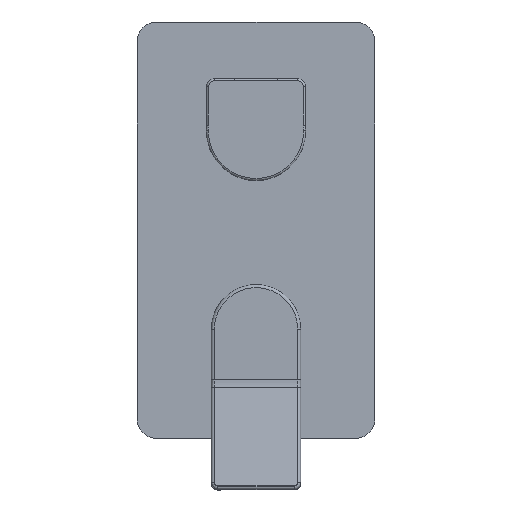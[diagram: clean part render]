
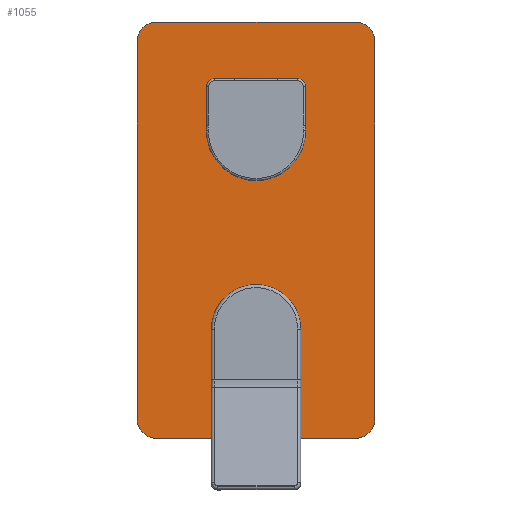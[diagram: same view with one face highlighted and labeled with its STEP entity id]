
A CAD part, top view. The second image highlights one B-rep face of the part: STEP entity #1055.
In plain terms, the highlighted planar face has unit normal (0, 0, 1).
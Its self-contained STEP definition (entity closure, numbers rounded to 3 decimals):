
#8 = AXIS2_PLACEMENT_3D ( 'NONE', #2489, #3439, #3807 ) ;
#42 = EDGE_CURVE ( 'NONE', #112, #3299, #3904, .T. ) ;
#63 = DIRECTION ( 'NONE',  ( 0., 0., -1. ) ) ;
#112 = VERTEX_POINT ( 'NONE', #1714 ) ;
#125 = EDGE_CURVE ( 'NONE', #2062, #479, #244, .T. ) ;
#162 = DIRECTION ( 'NONE',  ( 1., 0., 0. ) ) ;
#209 = CIRCLE ( 'NONE', #8, 22.5 ) ;
#244 = CIRCLE ( 'NONE', #3224, 10. ) ;
#260 = CARTESIAN_POINT ( 'NONE',  ( -4.847, -41.678, 225.167 ) ) ;
#280 = ORIENTED_EDGE ( 'NONE', *, *, #3735, .F. ) ;
#395 = DIRECTION ( 'NONE',  ( 0., 1., 0. ) ) ;
#405 = CARTESIAN_POINT ( 'NONE',  ( -54.847, 103.322, 225.167 ) ) ;
#409 = VECTOR ( 'NONE', #395, 1000. ) ;
#437 = VERTEX_POINT ( 'NONE', #3180 ) ;
#441 = VERTEX_POINT ( 'NONE', #1258 ) ;
#451 = CIRCLE ( 'NONE', #3973, 21.2 ) ;
#479 = VERTEX_POINT ( 'NONE', #3197 ) ;
#521 = CARTESIAN_POINT ( 'NONE',  ( 45.153, -86.678, 225.167 ) ) ;
#534 = DIRECTION ( 'NONE',  ( 0., 0., 1. ) ) ;
#541 = CARTESIAN_POINT ( 'NONE',  ( 17.513, -44.178, 225.167 ) ) ;
#561 = DIRECTION ( 'NONE',  ( 1., 0., 0. ) ) ;
#578 = ORIENTED_EDGE ( 'NONE', *, *, #697, .F. ) ;
#582 = ORIENTED_EDGE ( 'NONE', *, *, #1013, .F. ) ;
#622 = ORIENTED_EDGE ( 'NONE', *, *, #1844, .T. ) ;
#642 = EDGE_CURVE ( 'NONE', #2534, #3655, #451, .T. ) ;
#648 = VERTEX_POINT ( 'NONE', #541 ) ;
#697 = EDGE_CURVE ( 'NONE', #2790, #1400, #2550, .T. ) ;
#772 = EDGE_CURVE ( 'NONE', #2100, #112, #1596, .T. ) ;
#773 = CARTESIAN_POINT ( 'NONE',  ( -29.847, 58.322, 225.167 ) ) ;
#806 = EDGE_CURVE ( 'NONE', #479, #2790, #3848, .T. ) ;
#812 = DIRECTION ( 'NONE',  ( -1., 0., 0. ) ) ;
#813 = CIRCLE ( 'NONE', #1617, 10. ) ;
#827 = AXIS2_PLACEMENT_3D ( 'NONE', #2395, #2698, #812 ) ;
#885 = DIRECTION ( 'NONE',  ( 0., 0., -1. ) ) ;
#941 = DIRECTION ( 'NONE',  ( 0., 0., -1. ) ) ;
#1013 = EDGE_CURVE ( 'NONE', #437, #1314, #1726, .T. ) ;
#1055 = ADVANCED_FACE ( 'NONE', ( #3438, #3401, #3486, #3104 ), #2422, .F. ) ;
#1111 = CARTESIAN_POINT ( 'NONE',  ( -31.347, -44.178, 225.167 ) ) ;
#1229 = DIRECTION ( 'NONE',  ( 1., 0., 0. ) ) ;
#1254 = VECTOR ( 'NONE', #2888, 1000. ) ;
#1258 = CARTESIAN_POINT ( 'NONE',  ( -26.239, -44.178, 225.167 ) ) ;
#1264 = VERTEX_POINT ( 'NONE', #3937 ) ;
#1276 = DIRECTION ( 'NONE',  ( 0., 0., 1. ) ) ;
#1314 = VERTEX_POINT ( 'NONE', #773 ) ;
#1367 = EDGE_CURVE ( 'NONE', #648, #1264, #209, .T. ) ;
#1384 = EDGE_CURVE ( 'NONE', #1264, #441, #1547, .T. ) ;
#1389 = AXIS2_PLACEMENT_3D ( 'NONE', #1855, #885, #561 ) ;
#1400 = VERTEX_POINT ( 'NONE', #2162 ) ;
#1446 = EDGE_CURVE ( 'NONE', #3655, #2534, #4149, .T. ) ;
#1458 = AXIS2_PLACEMENT_3D ( 'NONE', #3744, #534, #3419 ) ;
#1494 = ORIENTED_EDGE ( 'NONE', *, *, #3135, .F. ) ;
#1547 = LINE ( 'NONE', #3489, #2656 ) ;
#1550 = EDGE_LOOP ( 'NONE', ( #578, #4061, #3036, #2196, #3392, #1833, #280, #1749 ) ) ;
#1570 = EDGE_CURVE ( 'NONE', #441, #1764, #2723, .T. ) ;
#1596 = LINE ( 'NONE', #2639, #1254 ) ;
#1610 = ORIENTED_EDGE ( 'NONE', *, *, #1367, .T. ) ;
#1617 = AXIS2_PLACEMENT_3D ( 'NONE', #521, #3770, #2144 ) ;
#1674 = CARTESIAN_POINT ( 'NONE',  ( -64.847, -86.678, 225.167 ) ) ;
#1714 = CARTESIAN_POINT ( 'NONE',  ( -54.847, -96.678, 225.167 ) ) ;
#1726 = CIRCLE ( 'NONE', #1458, 25. ) ;
#1727 = VERTEX_POINT ( 'NONE', #1947 ) ;
#1733 = CARTESIAN_POINT ( 'NONE',  ( 16.353, -41.678, 225.167 ) ) ;
#1749 = ORIENTED_EDGE ( 'NONE', *, *, #2591, .F. ) ;
#1764 = VERTEX_POINT ( 'NONE', #1906 ) ;
#1772 = LINE ( 'NONE', #1111, #2990 ) ;
#1802 = VECTOR ( 'NONE', #2595, 1000. ) ;
#1833 = ORIENTED_EDGE ( 'NONE', *, *, #772, .F. ) ;
#1835 = DIRECTION ( 'NONE',  ( 0., -1., 0. ) ) ;
#1844 = EDGE_CURVE ( 'NONE', #1764, #648, #1772, .T. ) ;
#1855 = CARTESIAN_POINT ( 'NONE',  ( 45.153, 103.322, 225.167 ) ) ;
#1868 = DIRECTION ( 'NONE',  ( 0., 0., -1. ) ) ;
#1906 = CARTESIAN_POINT ( 'NONE',  ( 16.545, -44.178, 225.167 ) ) ;
#1947 = CARTESIAN_POINT ( 'NONE',  ( 55.153, -86.678, 225.167 ) ) ;
#2062 = VERTEX_POINT ( 'NONE', #3248 ) ;
#2100 = VERTEX_POINT ( 'NONE', #3927 ) ;
#2144 = DIRECTION ( 'NONE',  ( -1., 0., 0. ) ) ;
#2162 = CARTESIAN_POINT ( 'NONE',  ( 55.153, 103.322, 225.167 ) ) ;
#2188 = LINE ( 'NONE', #2516, #3208 ) ;
#2196 = ORIENTED_EDGE ( 'NONE', *, *, #3651, .F. ) ;
#2311 = ORIENTED_EDGE ( 'NONE', *, *, #642, .T. ) ;
#2334 = AXIS2_PLACEMENT_3D ( 'NONE', #2770, #1868, #2508 ) ;
#2395 = CARTESIAN_POINT ( 'NONE',  ( -4.847, -41.749, 225.167 ) ) ;
#2405 = EDGE_LOOP ( 'NONE', ( #622, #1610, #2833, #4072 ) ) ;
#2409 = AXIS2_PLACEMENT_3D ( 'NONE', #3290, #3967, #4011 ) ;
#2422 = PLANE ( 'NONE',  #2334 ) ;
#2489 = CARTESIAN_POINT ( 'NONE',  ( -4.847, -41.678, 225.167 ) ) ;
#2508 = DIRECTION ( 'NONE',  ( -1., 0., 0. ) ) ;
#2516 = CARTESIAN_POINT ( 'NONE',  ( 55.153, -91.678, 225.167 ) ) ;
#2534 = VERTEX_POINT ( 'NONE', #1733 ) ;
#2550 = CIRCLE ( 'NONE', #1389, 10. ) ;
#2591 = EDGE_CURVE ( 'NONE', #1400, #1727, #2188, .T. ) ;
#2595 = DIRECTION ( 'NONE',  ( 1., 0., 0. ) ) ;
#2597 = AXIS2_PLACEMENT_3D ( 'NONE', #2917, #1276, #3835 ) ;
#2639 = CARTESIAN_POINT ( 'NONE',  ( -64.847, -96.678, 225.167 ) ) ;
#2656 = VECTOR ( 'NONE', #2811, 1000. ) ;
#2669 = LINE ( 'NONE', #3323, #409 ) ;
#2698 = DIRECTION ( 'NONE',  ( 0., 0., 1. ) ) ;
#2710 = CARTESIAN_POINT ( 'NONE',  ( -4.847, -41.678, 225.167 ) ) ;
#2723 = CIRCLE ( 'NONE', #827, 21.529 ) ;
#2770 = CARTESIAN_POINT ( 'NONE',  ( 0., 0., 225.167 ) ) ;
#2790 = VERTEX_POINT ( 'NONE', #3739 ) ;
#2811 = DIRECTION ( 'NONE',  ( 1., 0., 0. ) ) ;
#2833 = ORIENTED_EDGE ( 'NONE', *, *, #1384, .T. ) ;
#2888 = DIRECTION ( 'NONE',  ( -1., 0., 0. ) ) ;
#2917 = CARTESIAN_POINT ( 'NONE',  ( -4.847, 58.322, 225.167 ) ) ;
#2990 = VECTOR ( 'NONE', #162, 1000. ) ;
#3036 = ORIENTED_EDGE ( 'NONE', *, *, #125, .F. ) ;
#3104 = FACE_BOUND ( 'NONE', #2405, .T. ) ;
#3135 = EDGE_CURVE ( 'NONE', #1314, #437, #3411, .T. ) ;
#3180 = CARTESIAN_POINT ( 'NONE',  ( 20.153, 58.322, 225.167 ) ) ;
#3197 = CARTESIAN_POINT ( 'NONE',  ( -54.847, 113.322, 225.167 ) ) ;
#3208 = VECTOR ( 'NONE', #1835, 1000. ) ;
#3224 = AXIS2_PLACEMENT_3D ( 'NONE', #405, #63, #3692 ) ;
#3248 = CARTESIAN_POINT ( 'NONE',  ( -64.847, 103.322, 225.167 ) ) ;
#3290 = CARTESIAN_POINT ( 'NONE',  ( -54.847, -86.678, 225.167 ) ) ;
#3299 = VERTEX_POINT ( 'NONE', #1674 ) ;
#3323 = CARTESIAN_POINT ( 'NONE',  ( -64.847, 108.322, 225.167 ) ) ;
#3382 = CARTESIAN_POINT ( 'NONE',  ( -26.047, -41.678, 225.167 ) ) ;
#3392 = ORIENTED_EDGE ( 'NONE', *, *, #42, .F. ) ;
#3401 = FACE_BOUND ( 'NONE', #4142, .T. ) ;
#3411 = CIRCLE ( 'NONE', #2597, 25. ) ;
#3419 = DIRECTION ( 'NONE',  ( -1., 0., 0. ) ) ;
#3438 = FACE_OUTER_BOUND ( 'NONE', #1550, .T. ) ;
#3439 = DIRECTION ( 'NONE',  ( 0., 0., -1. ) ) ;
#3486 = FACE_BOUND ( 'NONE', #3532, .T. ) ;
#3489 = CARTESIAN_POINT ( 'NONE',  ( -31.347, -44.178, 225.167 ) ) ;
#3532 = EDGE_LOOP ( 'NONE', ( #2311, #3763 ) ) ;
#3651 = EDGE_CURVE ( 'NONE', #3299, #2062, #2669, .T. ) ;
#3655 = VERTEX_POINT ( 'NONE', #3382 ) ;
#3692 = DIRECTION ( 'NONE',  ( -1., 0., 0. ) ) ;
#3735 = EDGE_CURVE ( 'NONE', #1727, #2100, #813, .T. ) ;
#3739 = CARTESIAN_POINT ( 'NONE',  ( 45.153, 113.322, 225.167 ) ) ;
#3744 = CARTESIAN_POINT ( 'NONE',  ( -4.847, 58.322, 225.167 ) ) ;
#3763 = ORIENTED_EDGE ( 'NONE', *, *, #1446, .T. ) ;
#3770 = DIRECTION ( 'NONE',  ( 0., 0., -1. ) ) ;
#3791 = DIRECTION ( 'NONE',  ( 1., 0., 0. ) ) ;
#3807 = DIRECTION ( 'NONE',  ( 1., 0., 0. ) ) ;
#3835 = DIRECTION ( 'NONE',  ( -1., 0., 0. ) ) ;
#3848 = LINE ( 'NONE', #4192, #1802 ) ;
#3904 = CIRCLE ( 'NONE', #2409, 10. ) ;
#3927 = CARTESIAN_POINT ( 'NONE',  ( 45.153, -96.678, 225.167 ) ) ;
#3937 = CARTESIAN_POINT ( 'NONE',  ( -27.208, -44.178, 225.167 ) ) ;
#3967 = DIRECTION ( 'NONE',  ( 0., 0., -1. ) ) ;
#3973 = AXIS2_PLACEMENT_3D ( 'NONE', #2710, #4005, #3791 ) ;
#4005 = DIRECTION ( 'NONE',  ( 0., 0., -1. ) ) ;
#4007 = AXIS2_PLACEMENT_3D ( 'NONE', #260, #941, #1229 ) ;
#4011 = DIRECTION ( 'NONE',  ( 1., 0., 0. ) ) ;
#4061 = ORIENTED_EDGE ( 'NONE', *, *, #806, .F. ) ;
#4072 = ORIENTED_EDGE ( 'NONE', *, *, #1570, .T. ) ;
#4142 = EDGE_LOOP ( 'NONE', ( #582, #1494 ) ) ;
#4149 = CIRCLE ( 'NONE', #4007, 21.2 ) ;
#4192 = CARTESIAN_POINT ( 'NONE',  ( 55.153, 113.322, 225.167 ) ) ;
